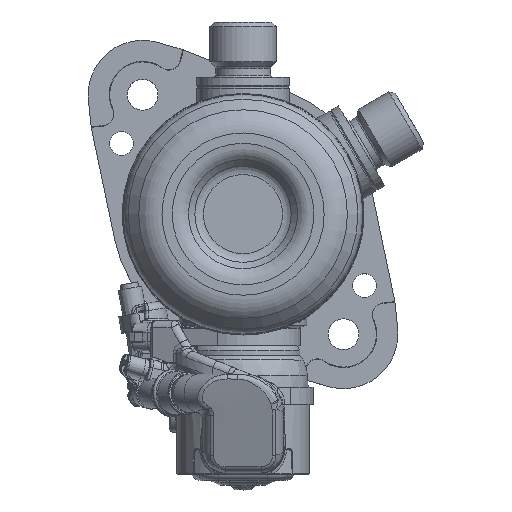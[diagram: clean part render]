
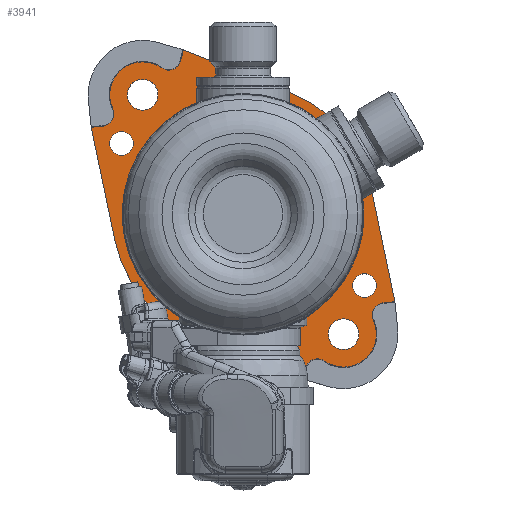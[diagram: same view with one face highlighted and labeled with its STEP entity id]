
A CAD part, top view. The second image highlights one B-rep face of the part: STEP entity #3941.
In plain terms, the highlighted planar face has unit normal (0, 0, 1).
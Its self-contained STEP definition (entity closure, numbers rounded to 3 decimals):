
#566=FACE_BOUND('',#9647,.T.);
#567=FACE_BOUND('',#9648,.T.);
#568=FACE_BOUND('',#9649,.T.);
#569=FACE_BOUND('',#9650,.T.);
#570=FACE_BOUND('',#9651,.T.);
#571=FACE_BOUND('',#9652,.T.);
#3941=ADVANCED_FACE('',(#566,#567,#568,#569,#570,#571),#5854,.T.);
#5854=PLANE('',#43571);
#9647=EDGE_LOOP('',(#21477));
#9648=EDGE_LOOP('',(#21478));
#9649=EDGE_LOOP('',(#21479));
#9650=EDGE_LOOP('',(#21480));
#9651=EDGE_LOOP('',(#21481,#21482,#21483,#21484,#21485,#21486,#21487,#21488,
#21489,#21490,#21491,#21492,#21493,#21494,#21495,#21496));
#9652=EDGE_LOOP('',(#21497));
#11949=LINE('',#71835,#13641);
#11951=LINE('',#71841,#13643);
#11965=LINE('',#71877,#13657);
#11967=LINE('',#71883,#13659);
#11972=LINE('',#71901,#13664);
#11973=LINE('',#71903,#13665);
#11974=LINE('',#71907,#13666);
#11975=LINE('',#71908,#13667);
#13641=VECTOR('',#49659,1.);
#13643=VECTOR('',#49665,1.);
#13657=VECTOR('',#49707,1.);
#13659=VECTOR('',#49713,1.);
#13664=VECTOR('',#49734,1.);
#13665=VECTOR('',#49735,1.);
#13666=VECTOR('',#49738,1.);
#13667=VECTOR('',#49739,1.);
#21477=ORIENTED_EDGE('',*,*,#36347,.F.);
#21478=ORIENTED_EDGE('',*,*,#36348,.F.);
#21479=ORIENTED_EDGE('',*,*,#36349,.F.);
#21480=ORIENTED_EDGE('',*,*,#36350,.F.);
#21481=ORIENTED_EDGE('',*,*,#36351,.F.);
#21482=ORIENTED_EDGE('',*,*,#36342,.T.);
#21483=ORIENTED_EDGE('',*,*,#36302,.T.);
#21484=ORIENTED_EDGE('',*,*,#36300,.T.);
#21485=ORIENTED_EDGE('',*,*,#36298,.T.);
#21486=ORIENTED_EDGE('',*,*,#36318,.T.);
#21487=ORIENTED_EDGE('',*,*,#36352,.F.);
#21488=ORIENTED_EDGE('',*,*,#36353,.F.);
#21489=ORIENTED_EDGE('',*,*,#36354,.F.);
#21490=ORIENTED_EDGE('',*,*,#36321,.T.);
#21491=ORIENTED_EDGE('',*,*,#36296,.T.);
#21492=ORIENTED_EDGE('',*,*,#36294,.T.);
#21493=ORIENTED_EDGE('',*,*,#36292,.T.);
#21494=ORIENTED_EDGE('',*,*,#36339,.T.);
#21495=ORIENTED_EDGE('',*,*,#36355,.F.);
#21496=ORIENTED_EDGE('',*,*,#36356,.F.);
#21497=ORIENTED_EDGE('',*,*,#36304,.F.);
#31819=VERTEX_POINT('',#71779);
#31820=VERTEX_POINT('',#71781);
#31821=VERTEX_POINT('',#71785);
#31822=VERTEX_POINT('',#71789);
#31823=VERTEX_POINT('',#71793);
#31824=VERTEX_POINT('',#71795);
#31825=VERTEX_POINT('',#71799);
#31826=VERTEX_POINT('',#71803);
#31827=VERTEX_POINT('',#71807);
#31834=VERTEX_POINT('',#71834);
#31836=VERTEX_POINT('',#71839);
#31844=VERTEX_POINT('',#71876);
#31846=VERTEX_POINT('',#71881);
#31848=VERTEX_POINT('',#71894);
#31849=VERTEX_POINT('',#71896);
#31850=VERTEX_POINT('',#71898);
#31851=VERTEX_POINT('',#71900);
#31852=VERTEX_POINT('',#71902);
#31853=VERTEX_POINT('',#71904);
#31854=VERTEX_POINT('',#71906);
#31855=VERTEX_POINT('',#71909);
#36292=EDGE_CURVE('',#31819,#31820,#41059,.T.);
#36294=EDGE_CURVE('',#31821,#31819,#41061,.T.);
#36296=EDGE_CURVE('',#31822,#31821,#41063,.T.);
#36298=EDGE_CURVE('',#31824,#31823,#41065,.T.);
#36300=EDGE_CURVE('',#31825,#31824,#41067,.T.);
#36302=EDGE_CURVE('',#31826,#31825,#41069,.T.);
#36304=EDGE_CURVE('',#31827,#31827,#41071,.T.);
#36318=EDGE_CURVE('',#31823,#31834,#11949,.T.);
#36321=EDGE_CURVE('',#31836,#31822,#11951,.T.);
#36339=EDGE_CURVE('',#31820,#31844,#11965,.T.);
#36342=EDGE_CURVE('',#31846,#31826,#11967,.T.);
#36347=EDGE_CURVE('',#31848,#31848,#41078,.T.);
#36348=EDGE_CURVE('',#31849,#31849,#41079,.T.);
#36349=EDGE_CURVE('',#31850,#31850,#41080,.T.);
#36350=EDGE_CURVE('',#31851,#31851,#41081,.T.);
#36351=EDGE_CURVE('',#31846,#31852,#11972,.T.);
#36352=EDGE_CURVE('',#31853,#31834,#11973,.T.);
#36353=EDGE_CURVE('',#31854,#31853,#41082,.T.);
#36354=EDGE_CURVE('',#31836,#31854,#11974,.T.);
#36355=EDGE_CURVE('',#31855,#31844,#11975,.T.);
#36356=EDGE_CURVE('',#31852,#31855,#41083,.T.);
#41059=CIRCLE('',#43513,2.55);
#41061=CIRCLE('',#43516,6.95);
#41063=CIRCLE('',#43519,2.55);
#41065=CIRCLE('',#43522,2.55);
#41067=CIRCLE('',#43525,6.95);
#41069=CIRCLE('',#43528,2.55);
#41071=CIRCLE('',#43531,21.55);
#41078=CIRCLE('',#43565,3.25);
#41079=CIRCLE('',#43566,2.5);
#41080=CIRCLE('',#43567,2.5);
#41081=CIRCLE('',#43568,3.25);
#41082=CIRCLE('',#43569,27.6);
#41083=CIRCLE('',#43570,27.6);
#43513=AXIS2_PLACEMENT_3D('',#71782,#49590,#49591);
#43516=AXIS2_PLACEMENT_3D('',#71786,#49596,#49597);
#43519=AXIS2_PLACEMENT_3D('',#71790,#49602,#49603);
#43522=AXIS2_PLACEMENT_3D('',#71794,#49608,#49609);
#43525=AXIS2_PLACEMENT_3D('',#71798,#49614,#49615);
#43528=AXIS2_PLACEMENT_3D('',#71802,#49620,#49621);
#43531=AXIS2_PLACEMENT_3D('',#71806,#49626,#49627);
#43565=AXIS2_PLACEMENT_3D('',#71893,#49726,#49727);
#43566=AXIS2_PLACEMENT_3D('',#71895,#49728,#49729);
#43567=AXIS2_PLACEMENT_3D('',#71897,#49730,#49731);
#43568=AXIS2_PLACEMENT_3D('',#71899,#49732,#49733);
#43569=AXIS2_PLACEMENT_3D('',#71905,#49736,#49737);
#43570=AXIS2_PLACEMENT_3D('',#71910,#49740,#49741);
#43571=AXIS2_PLACEMENT_3D('',#71911,#49742,#49743);
#49590=DIRECTION('',(0.,0.,-1.));
#49591=DIRECTION('',(0.643,-0.766,0.));
#49596=DIRECTION('',(0.,0.,1.));
#49597=DIRECTION('',(0.643,-0.766,0.));
#49602=DIRECTION('',(0.,0.,-1.));
#49603=DIRECTION('',(0.643,-0.766,0.));
#49608=DIRECTION('',(0.,0.,-1.));
#49609=DIRECTION('',(0.643,-0.766,0.));
#49614=DIRECTION('',(0.,0.,1.));
#49615=DIRECTION('',(0.643,-0.766,0.));
#49620=DIRECTION('',(0.,0.,-1.));
#49621=DIRECTION('',(0.643,-0.766,0.));
#49626=DIRECTION('',(0.,0.,1.));
#49627=DIRECTION('',(0.,-1.,0.));
#49659=DIRECTION('',(0.995,0.103,0.));
#49665=DIRECTION('',(-0.274,-0.962,0.));
#49707=DIRECTION('',(-0.995,-0.103,0.));
#49713=DIRECTION('',(0.274,0.962,0.));
#49726=DIRECTION('',(0.,0.,1.));
#49727=DIRECTION('',(-0.643,0.766,0.));
#49728=DIRECTION('',(0.,0.,1.));
#49729=DIRECTION('',(-0.643,0.766,0.));
#49730=DIRECTION('',(0.,0.,1.));
#49731=DIRECTION('',(0.643,-0.766,0.));
#49732=DIRECTION('',(0.,0.,1.));
#49733=DIRECTION('',(0.643,-0.766,0.));
#49734=DIRECTION('',(-0.928,0.372,0.));
#49735=DIRECTION('',(0.205,-0.979,0.));
#49736=DIRECTION('',(0.,0.,-1.));
#49737=DIRECTION('',(0.643,-0.766,0.));
#49738=DIRECTION('',(0.928,-0.372,0.));
#49739=DIRECTION('',(-0.205,0.979,0.));
#49740=DIRECTION('',(0.,0.,-1.));
#49741=DIRECTION('',(0.643,-0.766,0.));
#49742=DIRECTION('',(0.,0.,1.));
#49743=DIRECTION('',(0.643,-0.766,0.));
#71779=CARTESIAN_POINT('',(-27.491,22.301,5.75));
#71781=CARTESIAN_POINT('',(-29.533,18.672,5.75));
#71782=CARTESIAN_POINT('',(-29.795,21.208,5.75));
#71785=CARTESIAN_POINT('',(-17.188,30.946,5.75));
#71786=CARTESIAN_POINT('',(-21.212,25.279,5.75));
#71789=CARTESIAN_POINT('',(-13.26,32.327,5.75));
#71790=CARTESIAN_POINT('',(-15.712,33.025,5.75));
#71793=CARTESIAN_POINT('',(29.533,-18.672,5.75));
#71794=CARTESIAN_POINT('',(29.795,-21.208,5.75));
#71795=CARTESIAN_POINT('',(27.491,-22.301,5.75));
#71798=CARTESIAN_POINT('',(21.212,-25.279,5.75));
#71799=CARTESIAN_POINT('',(17.188,-30.946,5.75));
#71802=CARTESIAN_POINT('',(15.712,-33.025,5.75));
#71803=CARTESIAN_POINT('',(13.26,-32.327,5.75));
#71806=CARTESIAN_POINT('',(0.,0.,5.75));
#71807=CARTESIAN_POINT('',(0.,-21.55,5.75));
#71834=CARTESIAN_POINT('',(32.058,-18.411,5.75));
#71835=CARTESIAN_POINT('',(-16.18,-23.397,5.75));
#71839=CARTESIAN_POINT('',(-12.564,34.768,5.75));
#71841=CARTESIAN_POINT('',(-13.26,32.327,5.75));
#71876=CARTESIAN_POINT('',(-32.058,18.411,5.75));
#71877=CARTESIAN_POINT('',(-32.063,18.41,5.75));
#71881=CARTESIAN_POINT('',(12.564,-34.768,5.75));
#71883=CARTESIAN_POINT('',(25.852,11.871,5.75));
#71893=CARTESIAN_POINT('',(-21.212,25.279,5.75));
#71894=CARTESIAN_POINT('',(-23.301,27.769,5.75));
#71895=CARTESIAN_POINT('',(-25.658,15.021,5.75));
#71896=CARTESIAN_POINT('',(-27.265,16.936,5.75));
#71897=CARTESIAN_POINT('',(25.658,-15.021,5.75));
#71898=CARTESIAN_POINT('',(27.265,-16.936,5.75));
#71899=CARTESIAN_POINT('',(21.212,-25.279,5.75));
#71900=CARTESIAN_POINT('',(23.301,-27.769,5.75));
#71901=CARTESIAN_POINT('',(-37.271,-14.798,5.75));
#71902=CARTESIAN_POINT('',(-10.266,-25.62,5.75));
#71903=CARTESIAN_POINT('',(21.046,34.136,5.75));
#71904=CARTESIAN_POINT('',(27.013,5.661,5.75));
#71905=CARTESIAN_POINT('',(0.,0.,5.75));
#71906=CARTESIAN_POINT('',(10.266,25.62,5.75));
#71907=CARTESIAN_POINT('',(-16.739,36.441,5.75));
#71908=CARTESIAN_POINT('',(-32.981,22.813,5.75));
#71909=CARTESIAN_POINT('',(-27.013,-5.661,5.75));
#71910=CARTESIAN_POINT('',(0.,0.,5.75));
#71911=CARTESIAN_POINT('',(-21.212,25.279,5.75));
